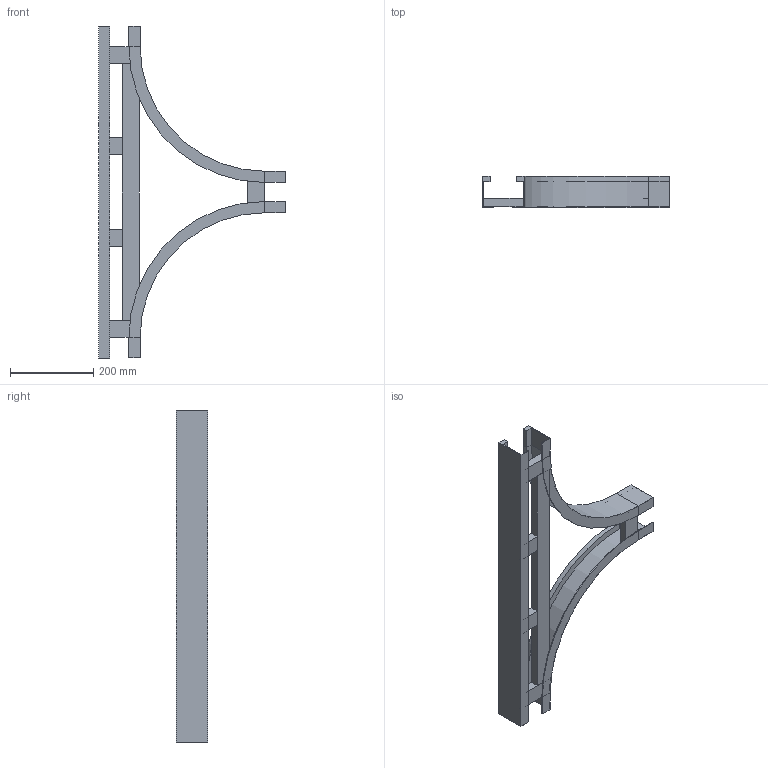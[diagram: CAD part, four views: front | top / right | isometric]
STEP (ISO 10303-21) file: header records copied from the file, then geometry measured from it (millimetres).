
FILE_DESCRIPTION (( 'STEP AP214' ), '1' );
FILE_NAME ('B2_15B3C100.step', '2025-02-21T15:53:34', ( '' ), ( '' ), 'SwSTEP 2.0', 'SolidWorks 2023', '' );
FILE_SCHEMA (( 'AUTOMOTIVE_DESIGN' ));
Length unit declared in the file: millimetre
Products named in the file (6): TRAVERSINO_100; B2_TRAVERSINO_LONG._R300+100; TRAVERSINO_INTERMEDIO_R300+100; B2_LONGH.INTERNO 90°_H75_R300; B2_15B3C100; B2_LONGH.RETT_H75_R300+100
Assembly tree (9 placements, depth 2):
  B2_15B3C100
    B2_LONGH.INTERNO 90°_H75_R300  x2
    B2_LONGH.RETT_H75_R300+100
    TRAVERSINO_100  x3
    B2_TRAVERSINO_LONG._R300+100
    TRAVERSINO_INTERMEDIO_R300+100  x2
Bounding box: 450 x 75 x 800 mm (x, y, z)
Volume: 1594812 mm3; surface area: 598201.8 mm2
Topology: 9 solids, 9 shells, 98 faces, 208 edges, 128 vertices
Faces by surface type: plane 90, cylinder 8
Entity records: 1639 total; most frequent: DIRECTION 256, CARTESIAN_POINT 254, ORIENTED_EDGE 232, EDGE_CURVE 116, LINE 108, VECTOR 108, AXIS2_PLACEMENT_3D 74, VERTEX_POINT 72
